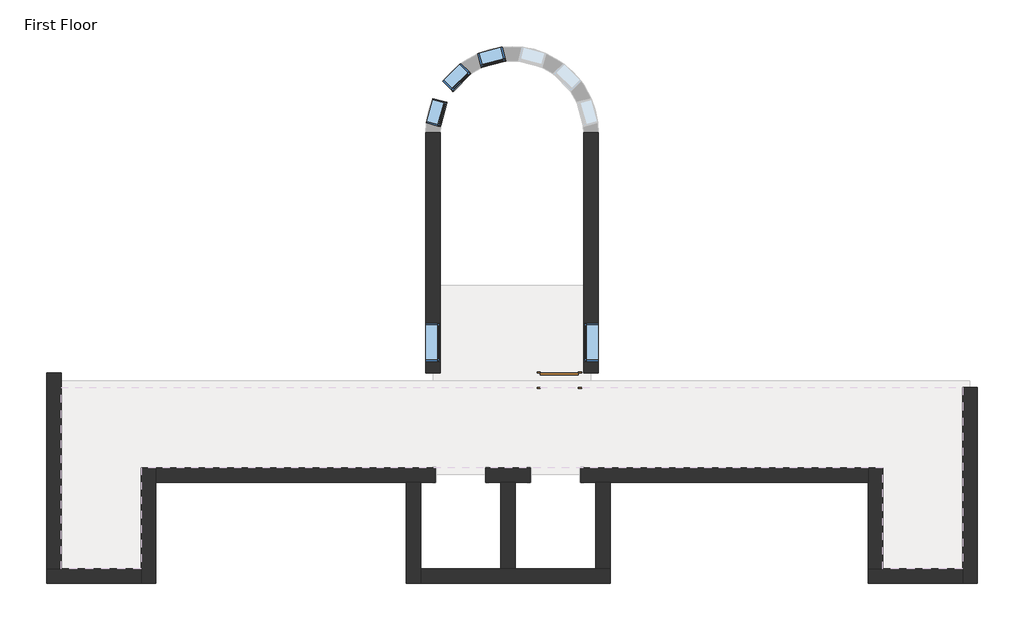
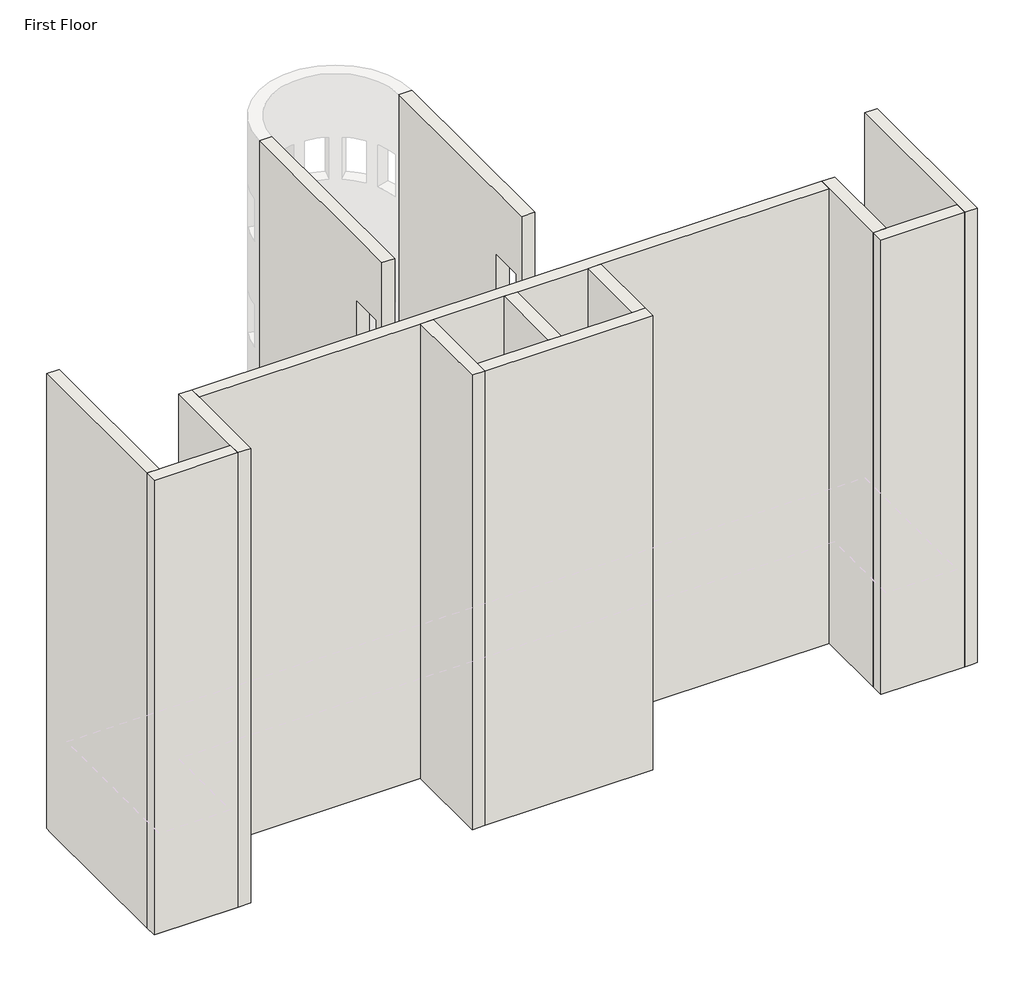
# One storey, part 1 of 3: 13 walls, 5 windows, 1 door.
"""IFC4 building model written with IfcOpenShell, lengths in millimetres."""

import ifcopenshell
import ifcopenshell.guid

model = None  # the IFC model being written
_history = None  # IfcOwnerHistory: only IFC2X3 demands one
_inside = {}  # id of a spatial element -> (the spatial element, [elements in it])
_under = {}  # id of a project, library or spatial element -> (it, [spatial elements below it])
_declared = {}  # id of a project -> (the project, [libraries it declares])
_typed = {}  # id of a type object -> (the type object, [elements of that type])
_made_of = {}  # id of a material, layer set ... -> (it, [elements and type objects made of it])


def new_model(schema):
    """Start an empty IFC model of exactly this schema.

    Asked for "IFC4X3", IfcOpenShell would pick the latest addendum, in which some entities
    have other attributes; the version numbers below select the first issue.
    IFC2X3 requires an IfcOwnerHistory on every rooted entity: one is made here for all.
    """
    global model, _history
    if schema == "IFC4X3":
        model = ifcopenshell.file(schema_version=(4, 3, 0, 0))
    else:
        model = ifcopenshell.file(schema=schema)
    _inside.clear()
    _under.clear()
    _declared.clear()
    _typed.clear()
    _made_of.clear()
    _history = None
    if model.schema == "IFC2X3":
        org = make("IfcOrganization", Name="unknown")
        user = make(
            "IfcPersonAndOrganization",
            ThePerson=make("IfcPerson", FamilyName="unknown"),
            TheOrganization=org,
        )
        app = make(
            "IfcApplication",
            ApplicationDeveloper=org,
            Version="unknown",
            ApplicationFullName="unknown",
            ApplicationIdentifier="unknown",
        )
        _history = make(
            "IfcOwnerHistory",
            OwningUser=user,
            OwningApplication=app,
            ChangeAction="ADDED",
            CreationDate=0,
        )
    return model


def make(cls, **values):
    """One entity of the class cls with the attributes given. An attribute that is None is left unset."""
    return model.create_entity(
        cls, **{name: value for name, value in values.items() if value is not None}
    )


def rooted(cls, **values):
    """An entity with a GlobalId (a new one), such as an element, a storey or a relation."""
    return make(cls, GlobalId=ifcopenshell.guid.new(), OwnerHistory=_history, **values)


def si_unit(unit_type, name, prefix=None):
    """IfcSIUnit, for example si_unit("LENGTHUNIT", "METRE", prefix="MILLI")."""
    return make("IfcSIUnit", UnitType=unit_type, Prefix=prefix, Name=name)


def assignment(units):
    """IfcUnitAssignment: the units of a project."""
    return None if units is None else make("IfcUnitAssignment", Units=units)


def point(xyz):
    """IfcCartesianPoint."""
    return None if xyz is None else make("IfcCartesianPoint", Coordinates=xyz)


def direction(xyz):
    """IfcDirection."""
    return None if xyz is None else make("IfcDirection", DirectionRatios=xyz)


def frame(location, z_axis=None, x_axis=None):
    """IfcAxis2Placement3D, a coordinate frame: its origin and axes. An axis left out is left unset."""
    return make(
        "IfcAxis2Placement3D",
        Location=point(location),
        Axis=direction(z_axis),
        RefDirection=direction(x_axis),
    )


def origin():
    """The frame at (0, 0, 0) with its axes left unset."""
    return frame((0.0, 0.0, 0.0))


def origin_with_axes():
    """The frame at (0, 0, 0) with the z axis (0, 0, 1) and the x axis (1, 0, 0) written out."""
    return frame((0.0, 0.0, 0.0), z_axis=(0.0, 0.0, 1.0), x_axis=(1.0, 0.0, 0.0))


def place(relative_to, where):
    """IfcLocalPlacement: puts the frame where relative to a parent placement (None: the world)."""
    return make(
        "IfcLocalPlacement", PlacementRelTo=relative_to, RelativePlacement=where
    )


def context(
    kind, dimensions, precision=None, world=None, true_north=None, identifier=None
):
    """IfcGeometricRepresentationContext, for example the 3D "Model" context."""
    return make(
        "IfcGeometricRepresentationContext",
        ContextIdentifier=identifier,
        ContextType=kind,
        CoordinateSpaceDimension=dimensions,
        Precision=precision,
        WorldCoordinateSystem=world,
        TrueNorth=true_north,
    )


def project(units=None, contexts=None):
    """IfcProject with its units and contexts."""
    return rooted(
        "IfcProject",
        Name="project",
        RepresentationContexts=contexts,
        UnitsInContext=assignment(units),
    )


def spatial(cls, under=None, at=None, **own):
    """A site, building, storey or space (cls), placed at a placement, below another one or the project."""
    s = rooted(cls, ObjectPlacement=at, **own)
    if under is not None:
        _under.setdefault(under.id(), (under, []))[1].append(s)
    return s


def polyline(points):
    """IfcPolyline through the points."""
    return make("IfcPolyline", Points=[point(p) for p in points])


def outline(outer, holes=None, kind="AREA"):
    """IfcArbitraryClosedProfileDef: a profile drawn as a closed curve; with holes, ...WithVoids."""
    if holes is None:
        return make("IfcArbitraryClosedProfileDef", ProfileType=kind, OuterCurve=outer)
    return make(
        "IfcArbitraryProfileDefWithVoids",
        ProfileType=kind,
        OuterCurve=outer,
        InnerCurves=holes,
    )


def extrude(swept, where, along, depth):
    """IfcExtrudedAreaSolid: the profile swept, set in the frame where, extruded along a direction by depth."""
    return make(
        "IfcExtrudedAreaSolid",
        SweptArea=swept,
        Position=where,
        ExtrudedDirection=direction(along),
        Depth=depth,
    )


def faces_of(points, faces, orient=None, outer=None):
    """IfcFace entities. A face is a list of loops; a loop is a list of indices into points, from 0.

    orient and outer hold one flag for each loop. By default every Orientation is true, the
    first loop of a face is its IfcFaceOuterBound and the others are IfcFaceBound.
    """
    made = []
    for i, loops in enumerate(faces):
        bounds = []
        for j, loop in enumerate(loops):
            is_outer = j == 0 if outer is None else outer[i][j]
            bounds.append(
                make(
                    "IfcFaceOuterBound" if is_outer else "IfcFaceBound",
                    Bound=make("IfcPolyLoop", Polygon=[points[k] for k in loop]),
                    Orientation=True if orient is None else orient[i][j],
                )
            )
        made.append(make("IfcFace", Bounds=bounds))
    return made


def faceted_brep(points, faces, orient=None, outer=None, voids=None):
    """IfcFacetedBrep: a solid bounded by flat faces; with voids (closed shells), ...WithVoids."""
    shared = [point(p) for p in points]
    hull = make("IfcClosedShell", CfsFaces=faces_of(shared, faces, orient, outer))
    if voids is None:
        return make("IfcFacetedBrep", Outer=hull)
    return make(
        "IfcFacetedBrepWithVoids",
        Outer=hull,
        Voids=[
            make(cls, CfsFaces=faces_of(shared, fs, o, b)) for cls, fs, o, b in voids
        ],
    )


def shape(context_of_items, identifier, shape_type, items):
    """IfcShapeRepresentation: the items that make up one representation, for example the "Body"."""
    return make(
        "IfcShapeRepresentation",
        ContextOfItems=context_of_items,
        RepresentationIdentifier=identifier,
        RepresentationType=shape_type,
        Items=items,
    )


def source(mapping_origin, context_of_items, identifier, shape_type, items):
    """IfcRepresentationMap: a shape defined once, which mapped items show again and again."""
    return make(
        "IfcRepresentationMap",
        MappingOrigin=mapping_origin,
        MappedRepresentation=shape(context_of_items, identifier, shape_type, items),
    )


def transform(
    local_origin,
    x_axis=None,
    y_axis=None,
    z_axis=None,
    scale=None,
    scale2=None,
    scale3=None,
    uniform=True,
):
    """IfcCartesianTransformationOperator3D, or its non-uniform kind. x_axis, y_axis, z_axis: its Axis1, 2, 3."""
    if uniform:
        return make(
            "IfcCartesianTransformationOperator3D",
            Axis1=direction(x_axis),
            Axis2=direction(y_axis),
            LocalOrigin=point(local_origin),
            Scale=scale,
            Axis3=direction(z_axis),
        )
    return make(
        "IfcCartesianTransformationOperator3DnonUniform",
        Axis1=direction(x_axis),
        Axis2=direction(y_axis),
        LocalOrigin=point(local_origin),
        Scale=scale,
        Axis3=direction(z_axis),
        Scale2=scale2,
        Scale3=scale3,
    )


def mapped(mapping_source, mapping_target):
    """IfcMappedItem: shows the shape of a source again, moved by a transform."""
    return make(
        "IfcMappedItem", MappingSource=mapping_source, MappingTarget=mapping_target
    )


def made_of(thing, what):
    """Note that an element or type object is made of a material, layer set ...; save() writes the relation."""
    if what is not None:
        _made_of.setdefault(what.id(), (what, []))[1].append(thing)
    return thing


def element(
    cls,
    number,
    at=None,
    inside=None,
    cuts=None,
    type_object=None,
    material=None,
    context=None,
    identifier="Body",
    shape_type=None,
    held_by="IfcProductDefinitionShape",
    body=None,
    shapes=None,
    **own,
):
    """One element of the class cls, such as IfcWall. Its Tag is "e" and its number.

    at: its placement. inside: the storey or other place that contains it. cuts: it is an
    opening in that element (IfcRelVoidsElement). A single representation is given by context,
    identifier, shape_type and body (its items); several are given by shapes. held_by: the class
    of the entity that holds the representations. save() writes the other relations.
    """
    e = rooted(cls, Tag="e%d" % number, ObjectPlacement=at, **own)
    if body is not None:
        shapes = [shape(context, identifier, shape_type, body)]
    if shapes is not None:
        e.Representation = make(held_by, Representations=shapes)
    if inside is not None:
        _inside.setdefault(inside.id(), (inside, []))[1].append(e)
    if cuts is not None:
        rooted(
            "IfcRelVoidsElement", RelatingBuildingElement=cuts, RelatedOpeningElement=e
        )
    if type_object is not None:
        _typed.setdefault(type_object.id(), (type_object, []))[1].append(e)
    return made_of(e, material)


def aggregate(whole, parts):
    """IfcRelAggregates: a whole, such as a stair, and the parts it consists of."""
    return rooted("IfcRelAggregates", RelatingObject=whole, RelatedObjects=parts)


def save(model, path):
    """Write the relations noted so far, then the file.

    IfcRelAggregates (storeys below a building ...), IfcRelContainedInSpatialStructure (elements
    in a storey), IfcRelDefinesByType, IfcRelAssociatesMaterial and IfcRelDeclares: one each for
    every whole, place, type object, material and project.
    """
    for whole, parts in _under.values():
        aggregate(whole, parts)
    for where, things in _inside.values():
        rooted(
            "IfcRelContainedInSpatialStructure",
            RelatedElements=things,
            RelatingStructure=where,
        )
    for kind, things in _typed.values():
        rooted("IfcRelDefinesByType", RelatedObjects=things, RelatingType=kind)
    for what, things in _made_of.values():
        rooted("IfcRelAssociatesMaterial", RelatedObjects=things, RelatingMaterial=what)
    for by, libraries in _declared.values():
        rooted("IfcRelDeclares", RelatingContext=by, RelatedDefinitions=libraries)
    model.write(path)


def m_single_flush_0915_x_2134mm_1eac8bb1(model_context):
    return source(origin(), model_context, "Body", "SweptSolid", [
        extrude(outline(polyline([(2210.0, -533.5), (0.0, -533.5), (0.0, -457.5), (2134.0, -457.5), (2134.0, 457.5), (0.0, 457.5), (0.0, 533.5), (2210.0, 533.5), (2210.0, -533.5)])), frame((0.0, 175.0, 0.0), z_axis=(0.0, 1.0, 0.0), x_axis=(0.0, 0.0, 1.0)), (0.0, 0.0, 1.0), 25.0),
        extrude(outline(polyline([(2210.0, 533.5), (2210.0, -533.5), (0.0, -533.5), (0.0, -457.5), (2134.0, -457.5), (2134.0, 457.5), (0.0, 457.5), (0.0, 533.5), (2210.0, 533.5)])), frame((0.0, -200.0, 0.0), z_axis=(0.0, 1.0, 0.0), x_axis=(0.0, 0.0, 1.0)), (0.0, 0.0, 1.0), 25.0),
        extrude(outline(polyline([(457.5, 124.0), (-457.5, 124.0), (-457.5, 175.0), (457.5, 175.0), (457.5, 124.0)])), origin_with_axes(), (0.0, 0.0, 1.0), 2134.0),
    ])


def m_fixed_0610_x_1220mm_2c28ef1d(model_context):
    return source(origin(), model_context, "Body", "SweptSolid", [
        extrude(outline(polyline([(-242.0, 153.0), (242.0, 153.0), (242.0, 141.0), (-242.0, 141.0), (-242.0, 153.0)])), frame((0.0, 0.0, 978.0), z_axis=(0.0, 0.0, 1.0), x_axis=(1.0, 0.0, 0.0)), (0.0, 0.0, 1.0), 1094.0),
        extrude(outline(polyline([(2116.0, -286.0), (934.0, -286.0), (934.0, 286.0), (2116.0, 286.0), (2116.0, -286.0)]), holes=[polyline([(2072.0, -242.0), (2072.0, 242.0), (978.0, 242.0), (978.0, -242.0), (2072.0, -242.0)])]), frame((0.0, 125.0, 0.0), z_axis=(0.0, 1.0, 0.0), x_axis=(0.0, 0.0, 1.0)), (0.0, 0.0, 1.0), 44.0),
        extrude(outline(polyline([(2135.0, -305.0), (915.0, -305.0), (915.0, 305.0), (2135.0, 305.0), (2135.0, -305.0)]), holes=[polyline([(2116.0, -286.0), (2116.0, 286.0), (934.0, 286.0), (934.0, -286.0), (2116.0, -286.0)])]), frame((0.0, 125.0, 0.0), z_axis=(0.0, 1.0, 0.0), x_axis=(0.0, 0.0, 1.0)), (0.0, 0.0, 1.0), 63.0),
        extrude(outline(polyline([(2135.0, -305.0), (915.0, -305.0), (915.0, 305.0), (2135.0, 305.0), (2135.0, -305.0)]), holes=[polyline([(2103.0, -273.0), (2103.0, 273.0), (947.0, 273.0), (947.0, -273.0), (2103.0, -273.0)])]), frame((0.0, -162.0, 0.0), z_axis=(0.0, 1.0, 0.0), x_axis=(0.0, 0.0, 1.0)), (0.0, 0.0, 1.0), 287.0),
    ])


def m_fixed_0915_x_1220mm_bde29121(model_context):
    return source(origin(), model_context, "Body", "SweptSolid", [
        extrude(outline(polyline([(-394.5, 153.0), (394.5, 153.0), (394.5, 141.0), (-394.5, 141.0), (-394.5, 153.0)])), frame((0.0, 0.0, 978.0), z_axis=(0.0, 0.0, 1.0), x_axis=(1.0, 0.0, 0.0)), (0.0, 0.0, 1.0), 1094.0),
        extrude(outline(polyline([(2116.0, -438.5), (934.0, -438.5), (934.0, 438.5), (2116.0, 438.5), (2116.0, -438.5)]), holes=[polyline([(2072.0, -394.5), (2072.0, 394.5), (978.0, 394.5), (978.0, -394.5), (2072.0, -394.5)])]), frame((0.0, 125.0, 0.0), z_axis=(0.0, 1.0, 0.0), x_axis=(0.0, 0.0, 1.0)), (0.0, 0.0, 1.0), 44.0),
        extrude(outline(polyline([(2135.0, -457.5), (915.0, -457.5), (915.0, 457.5), (2135.0, 457.5), (2135.0, -457.5)]), holes=[polyline([(2116.0, -438.5), (2116.0, 438.5), (934.0, 438.5), (934.0, -438.5), (2116.0, -438.5)])]), frame((0.0, 125.0, 0.0), z_axis=(0.0, 1.0, 0.0), x_axis=(0.0, 0.0, 1.0)), (0.0, 0.0, 1.0), 63.0),
        extrude(outline(polyline([(2135.0, -457.5), (915.0, -457.5), (915.0, 457.5), (2135.0, 457.5), (2135.0, -457.5)]), holes=[polyline([(2103.0, -425.5), (2103.0, 425.5), (947.0, 425.5), (947.0, -425.5), (2103.0, -425.5)])]), frame((0.0, -162.0, 0.0), z_axis=(0.0, 1.0, 0.0), x_axis=(0.0, 0.0, 1.0)), (0.0, 0.0, 1.0), 287.0),
    ])


model = new_model("IFC4")

# Units and contexts
model_context = context("Model", 3, world=origin())
ifc_project = project(units=[si_unit("LENGTHUNIT", "METRE", prefix="MILLI")], contexts=[model_context])

# Site, building, storey
site = spatial("IfcSite", under=ifc_project)
building = spatial("IfcBuilding", under=site)
storey = spatial("IfcBuildingStorey", under=building, Name="First Floor", Elevation=0.0)

# Door
placement = place(None, origin())
m_single_flush_0915_x_2134mm_shape = m_single_flush_0915_x_2134mm_1eac8bb1(model_context)
element("IfcDoor", 1, ObjectType="M_Single-Flush : 0915 x 2134mm", at=placement, inside=storey, context=model_context, shape_type="MappedRepresentation", body=[
    mapped(m_single_flush_0915_x_2134mm_shape, transform((3632.0924567, -764.7443399, 0.0), x_axis=(1.0, 0.0, 0.0), y_axis=(0.0, 1.0, 0.0), z_axis=(0.0, 0.0, 1.0))),
])

# Walls
element("IfcWall", 2, ObjectType="Exterior - Brick on Mtl. Stud", at=placement, inside=storey, context=model_context, shape_type="Brep", body=[
    faceted_brep([(-6448.9075433, -2875.7443399, 0.0), (-6448.9075433, -5314.1443399, 0.0), (-6448.9075433, -5664.1443399, 0.0), (-6448.9075433, -5664.1443399, 13107.0), (-6448.9075433, -5314.1443399, 13107.0), (-6448.9075433, -2875.7443399, 13107.0), (-6098.9075433, -2875.7443399, 0.0), (-6098.9075433, -2875.7443399, 13107.0), (-6098.9075433, -3225.7443399, 13107.0), (-6098.9075433, -5664.1443399, 13107.0), (-6098.9075433, -5664.1443399, 0.0), (-6098.9075433, -3225.7443399, 0.0)], [[[0, 1, 2, 3, 4, 5]], [[6, 7, 8, 9, 10, 11]], [[2, 1, 0, 6, 11, 10]], [[5, 4, 3, 9, 8, 7]], [[3, 2, 10, 9]], [[0, 5, 7, 6]]]),
])
element("IfcWall", 3, ObjectType="Exterior - Brick on Mtl. Stud", at=placement, inside=storey, context=model_context, shape_type="Brep", body=[
    faceted_brep([(-6448.9075433, -5314.1443399, 0.0), (-8384.9075433, -5314.1443399, 0.0), (-8734.9075433, -5314.1443399, 0.0), (-8734.9075433, -5314.1443399, 13107.0), (-8384.9075433, -5314.1443399, 13107.0), (-6448.9075433, -5314.1443399, 13107.0), (-6448.9075433, -5664.1443399, 0.0), (-6448.9075433, -5664.1443399, 13107.0), (-8734.9075433, -5664.1443399, 13107.0), (-8734.9075433, -5664.1443399, 0.0)], [[[0, 1, 2, 3, 4, 5]], [[6, 7, 8, 9]], [[2, 1, 0, 6, 9]], [[5, 4, 3, 8, 7]], [[0, 5, 7, 6]], [[3, 2, 9, 8]]]),
])
element("IfcWall", 4, ObjectType="Exterior - Brick on Mtl. Stud", at=placement, inside=storey, context=model_context, shape_type="Brep", body=[
    faceted_brep([(-8384.9075433, -5314.1443399, 0.0), (-8384.9075433, -939.7443399, 0.0), (-8384.9075433, -774.7443399, 0.0), (-8384.9075433, -589.7443399, 0.0), (-8384.9075433, -589.7443399, 13107.0), (-8384.9075433, -939.7443399, 13107.0), (-8384.9075433, -5314.1443399, 13107.0), (-8734.9075433, -5314.1443399, 0.0), (-8734.9075433, -5314.1443399, 13107.0), (-8734.9075433, -589.7443399, 13107.0), (-8734.9075433, -589.7443399, 0.0), (-8734.9075433, -774.7443399, 0.0), (-8549.9075433, -5314.1443399, 0.0), (-8549.9075433, -589.7443399, 0.0), (-8549.9075433, -774.7443399, 0.0)], [[[0, 1, 2, 3, 4, 5, 6]], [[7, 8, 9, 10, 11]], [[6, 5, 4, 9, 8]], [[0, 6, 8, 7, 12]], [[4, 3, 13, 10, 9]], [[12, 7, 11, 14]], [[3, 2, 14, 13]], [[14, 11, 10, 13]], [[2, 1, 0, 12, 14]]]),
])
element("IfcWall", 5, ObjectType="Exterior - Brick on Mtl. Stud", at=placement, inside=storey, context=model_context, shape_type="Brep", body=[
    faceted_brep([(13363.0924567, -939.7443399, 0.0), (13363.0924567, -5314.1443399, 0.0), (13363.0924567, -5479.1443399, 0.0), (13363.0924567, -5664.1443399, 0.0), (13363.0924567, -5664.1443399, 13107.0), (13363.0924567, -5314.1443399, 13107.0), (13363.0924567, -939.7443399, 13107.0), (13713.0924567, -939.7443399, 0.0), (13713.0924567, -939.7443399, 13107.0), (13713.0924567, -5664.1443399, 13107.0), (13713.0924567, -5664.1443399, 0.0), (13713.0924567, -5479.1443399, 0.0), (13528.0924567, -939.7443399, 0.0), (13528.0924567, -5664.1443399, 0.0), (13528.0924567, -5479.1443399, 0.0)], [[[0, 1, 2, 3, 4, 5, 6]], [[7, 8, 9, 10, 11]], [[6, 5, 4, 9, 8]], [[0, 6, 8, 7, 12]], [[4, 3, 13, 10, 9]], [[12, 7, 11, 14]], [[3, 2, 14, 13]], [[14, 11, 10, 13]], [[2, 1, 0, 12, 14]]]),
])
element("IfcWall", 6, ObjectType="Exterior - Brick on Mtl. Stud", at=placement, inside=storey, context=model_context, shape_type="Brep", body=[
    faceted_brep([(13363.0924567, -5314.1443399, 0.0), (11427.0924567, -5314.1443399, 0.0), (11077.0924567, -5314.1443399, 0.0), (11077.0924567, -5314.1443399, 13107.0), (11427.0924567, -5314.1443399, 13107.0), (13363.0924567, -5314.1443399, 13107.0), (13363.0924567, -5664.1443399, 0.0), (13363.0924567, -5664.1443399, 13107.0), (11077.0924567, -5664.1443399, 13107.0), (11077.0924567, -5664.1443399, 0.0)], [[[0, 1, 2, 3, 4, 5]], [[6, 7, 8, 9]], [[2, 1, 0, 6, 9]], [[5, 4, 3, 8, 7]], [[0, 5, 7, 6]], [[3, 2, 9, 8]]]),
])
element("IfcWall", 7, ObjectType="Exterior - Brick on Mtl. Stud", at=placement, inside=storey, context=model_context, shape_type="Brep", body=[
    faceted_brep([(11427.0924567, -5314.1443399, 0.0), (11427.0924567, -2875.7443399, 0.0), (11427.0924567, -2875.7443399, 13107.0), (11427.0924567, -5314.1443399, 13107.0), (11077.0924567, -5314.1443399, 0.0), (11077.0924567, -5314.1443399, 13107.0), (11077.0924567, -3225.7443399, 13107.0), (11077.0924567, -2875.7443399, 13107.0), (11077.0924567, -2875.7443399, 0.0), (11077.0924567, -3225.7443399, 0.0)], [[[0, 1, 2, 3]], [[4, 5, 6, 7, 8, 9]], [[1, 0, 4, 9, 8]], [[3, 2, 7, 6, 5]], [[0, 3, 5, 4]], [[2, 1, 8, 7]]]),
])
element("IfcWall", 8, ObjectType="Exterior - Brick on Mtl. Stud", at=placement, inside=storey, context=model_context, shape_type="Brep", body=[
    faceted_brep([(2928.0924567, -2875.7443399, 0.0), (1862.0924567, -2875.7443399, 0.0), (1862.0924567, -2875.7443399, 2134.0), (642.0924567, -2875.7443399, 2134.0), (642.0924567, -2875.7443399, 0.0), (-6098.9075433, -2875.7443399, 0.0), (-6098.9075433, -2875.7443399, 13107.0), (11077.0924567, -2875.7443399, 13107.0), (11077.0924567, -2875.7443399, 0.0), (4148.0924567, -2875.7443399, 0.0), (4148.0924567, -2875.7443399, 2134.0), (2928.0924567, -2875.7443399, 2134.0), (642.0924567, -2875.7443399, 11278.0), (642.0924567, -2875.7443399, 9144.0), (1862.0924567, -2875.7443399, 9144.0), (1862.0924567, -2875.7443399, 11278.0), (4148.0924567, -2875.7443399, 11278.0), (2928.0924567, -2875.7443399, 11278.0), (2928.0924567, -2875.7443399, 9144.0), (4148.0924567, -2875.7443399, 9144.0), (642.0924567, -2875.7443399, 5182.0), (642.0924567, -2875.7443399, 3048.0), (1862.0924567, -2875.7443399, 3048.0), (1862.0924567, -2875.7443399, 5182.0), (4148.0924567, -2875.7443399, 5182.0), (2928.0924567, -2875.7443399, 5182.0), (2928.0924567, -2875.7443399, 3048.0), (4148.0924567, -2875.7443399, 3048.0), (642.0924567, -2875.7443399, 8230.0), (642.0924567, -2875.7443399, 6096.0), (1862.0924567, -2875.7443399, 6096.0), (1862.0924567, -2875.7443399, 8230.0), (4148.0924567, -2875.7443399, 8230.0), (2928.0924567, -2875.7443399, 8230.0), (2928.0924567, -2875.7443399, 6096.0), (4148.0924567, -2875.7443399, 6096.0), (1862.0924567, -3225.7443399, 2134.0), (1862.0924567, -3225.7443399, 0.0), (2220.0924567, -3225.7443399, 0.0), (2570.0924567, -3225.7443399, 0.0), (2928.0924567, -3225.7443399, 0.0), (2928.0924567, -3225.7443399, 2134.0), (4148.0924567, -3225.7443399, 2134.0), (4148.0924567, -3225.7443399, 0.0), (4506.0924567, -3225.7443399, 0.0), (4856.0924567, -3225.7443399, 0.0), (11077.0924567, -3225.7443399, 0.0), (11077.0924567, -3225.7443399, 13107.0), (4856.0924567, -3225.7443399, 13107.0), (4506.0924567, -3225.7443399, 13107.0), (2570.0924567, -3225.7443399, 13107.0), (2220.0924567, -3225.7443399, 13107.0), (284.0924567, -3225.7443399, 13107.0), (-65.9075433, -3225.7443399, 13107.0), (-6098.9075433, -3225.7443399, 13107.0), (-6098.9075433, -3225.7443399, 0.0), (-65.9075433, -3225.7443399, 0.0), (284.0924567, -3225.7443399, 0.0), (642.0924567, -3225.7443399, 0.0), (642.0924567, -3225.7443399, 2134.0), (642.0924567, -3225.7443399, 11278.0), (1862.0924567, -3225.7443399, 11278.0), (1862.0924567, -3225.7443399, 9144.0), (642.0924567, -3225.7443399, 9144.0), (4148.0924567, -3225.7443399, 11278.0), (4148.0924567, -3225.7443399, 9144.0), (2928.0924567, -3225.7443399, 9144.0), (2928.0924567, -3225.7443399, 11278.0), (642.0924567, -3225.7443399, 5182.0), (1862.0924567, -3225.7443399, 5182.0), (1862.0924567, -3225.7443399, 3048.0), (642.0924567, -3225.7443399, 3048.0), (4148.0924567, -3225.7443399, 5182.0), (4148.0924567, -3225.7443399, 3048.0), (2928.0924567, -3225.7443399, 3048.0), (2928.0924567, -3225.7443399, 5182.0), (642.0924567, -3225.7443399, 8230.0), (1862.0924567, -3225.7443399, 8230.0), (1862.0924567, -3225.7443399, 6096.0), (642.0924567, -3225.7443399, 6096.0), (4148.0924567, -3225.7443399, 8230.0), (4148.0924567, -3225.7443399, 6096.0), (2928.0924567, -3225.7443399, 6096.0), (2928.0924567, -3225.7443399, 8230.0)], [[[0, 1, 2, 3, 4, 5, 6, 7, 8, 9, 10, 11], [12, 13, 14, 15], [16, 17, 18, 19], [20, 21, 22, 23], [24, 25, 26, 27], [28, 29, 30, 31], [32, 33, 34, 35]], [[36, 37, 38, 39, 40, 41, 42, 43, 44, 45, 46, 47, 48, 49, 50, 51, 52, 53, 54, 55, 56, 57, 58, 59], [60, 61, 62, 63], [64, 65, 66, 67], [68, 69, 70, 71], [72, 73, 74, 75], [76, 77, 78, 79], [80, 81, 82, 83]], [[9, 8, 46, 45, 44, 43]], [[58, 57, 56, 55, 5, 4]], [[40, 39, 38, 37, 1, 0]], [[7, 6, 54, 53, 52, 51, 50, 49, 48, 47]], [[6, 5, 55, 54]], [[8, 7, 47, 46]], [[43, 42, 10, 9]], [[41, 40, 0, 11]], [[42, 41, 11, 10]], [[4, 3, 59, 58]], [[2, 1, 37, 36]], [[3, 2, 36, 59]], [[13, 12, 60, 63]], [[14, 13, 63, 62]], [[15, 14, 62, 61]], [[12, 15, 61, 60]], [[65, 64, 16, 19]], [[66, 65, 19, 18]], [[67, 66, 18, 17]], [[64, 67, 17, 16]], [[21, 20, 68, 71]], [[22, 21, 71, 70]], [[23, 22, 70, 69]], [[20, 23, 69, 68]], [[73, 72, 24, 27]], [[74, 73, 27, 26]], [[75, 74, 26, 25]], [[72, 75, 25, 24]], [[29, 28, 76, 79]], [[30, 29, 79, 78]], [[31, 30, 78, 77]], [[28, 31, 77, 76]], [[81, 80, 32, 35]], [[82, 81, 35, 34]], [[83, 82, 34, 33]], [[80, 83, 33, 32]]]),
])
element("IfcWall", 9, ObjectType="Exterior - Brick on Mtl. Stud", at=placement, inside=storey, context=model_context, shape_type="SweptSolid", body=[
    extrude(outline(polyline([(5210.2556601, 0.0), (-589.7443399, 0.0), (-589.7443399, 13107.0), (5210.2556601, 13107.0), (5210.2556601, 0.0)]), holes=[polyline([(607.7556601, 915.0), (607.7556601, 2135.0), (-307.2443399, 2135.0), (-307.2443399, 915.0), (607.7556601, 915.0)]), polyline([(607.7556601, 10059.0), (607.7556601, 11279.0), (-307.2443399, 11279.0), (-307.2443399, 10059.0), (607.7556601, 10059.0)]), polyline([(607.7556601, 3963.0), (607.7556601, 5183.0), (-307.2443399, 5183.0), (-307.2443399, 3963.0), (607.7556601, 3963.0)]), polyline([(607.7556601, 7011.0), (607.7556601, 8231.0), (-307.2443399, 8231.0), (-307.2443399, 7011.0), (607.7556601, 7011.0)])]), frame((409.0924567, 0.0, 0.0), z_axis=(1.0, 0.0, 0.0), x_axis=(0.0, 1.0, 0.0)), (0.0, 0.0, 1.0), 350.0),
])
element("IfcWall", 10, ObjectType="Exterior - Brick on Mtl. Stud", at=placement, inside=storey, context=model_context, shape_type="SweptSolid", body=[
    extrude(outline(polyline([(-589.7443399, 0.0), (-589.7443399, 13107.0), (5210.2556601, 13107.0), (5210.2556601, 0.0), (-589.7443399, 0.0)]), holes=[polyline([(-307.2443399, 915.0), (607.7556601, 915.0), (607.7556601, 2135.0), (-307.2443399, 2135.0), (-307.2443399, 915.0)]), polyline([(-307.2443399, 10059.0), (607.7556601, 10059.0), (607.7556601, 11279.0), (-307.2443399, 11279.0), (-307.2443399, 10059.0)]), polyline([(-307.2443399, 3963.0), (607.7556601, 3963.0), (607.7556601, 5183.0), (-307.2443399, 5183.0), (-307.2443399, 3963.0)]), polyline([(-307.2443399, 7011.0), (607.7556601, 7011.0), (607.7556601, 8231.0), (-307.2443399, 8231.0), (-307.2443399, 7011.0)])]), frame((4219.0924567, 0.0, 0.0), z_axis=(1.0, 0.0, 0.0), x_axis=(0.0, 1.0, 0.0)), (0.0, 0.0, 1.0), 350.0),
])
element("IfcWall", 11, ObjectType="Exterior - Brick on Mtl. Stud", at=placement, inside=storey, context=model_context, shape_type="Brep", body=[
    faceted_brep([(-65.9075433, -3225.7443399, 0.0), (-65.9075433, -5664.1443399, 0.0), (-65.9075433, -5664.1443399, 13107.0), (-65.9075433, -3225.7443399, 13107.0), (284.0924567, -3225.7443399, 0.0), (284.0924567, -3225.7443399, 13107.0), (284.0924567, -5314.1443399, 13107.0), (284.0924567, -5664.1443399, 13107.0), (284.0924567, -5664.1443399, 0.0), (284.0924567, -5314.1443399, 0.0)], [[[0, 1, 2, 3]], [[4, 5, 6, 7, 8, 9]], [[1, 0, 4, 9, 8]], [[3, 2, 7, 6, 5]], [[0, 3, 5, 4]], [[2, 1, 8, 7]]]),
])
element("IfcWall", 12, ObjectType="Exterior - Brick on Mtl. Stud", at=placement, inside=storey, context=model_context, shape_type="Brep", body=[
    faceted_brep([(284.0924567, -5664.1443399, 0.0), (4856.0924567, -5664.1443399, 0.0), (4856.0924567, -5664.1443399, 13107.0), (284.0924567, -5664.1443399, 13107.0), (284.0924567, -5314.1443399, 0.0), (284.0924567, -5314.1443399, 13107.0), (2220.0924567, -5314.1443399, 13107.0), (2570.0924567, -5314.1443399, 13107.0), (4506.0924567, -5314.1443399, 13107.0), (4856.0924567, -5314.1443399, 13107.0), (4856.0924567, -5314.1443399, 0.0), (4506.0924567, -5314.1443399, 0.0), (2570.0924567, -5314.1443399, 0.0), (2220.0924567, -5314.1443399, 0.0)], [[[0, 1, 2, 3]], [[4, 5, 6, 7, 8, 9, 10, 11, 12, 13]], [[1, 0, 4, 13, 12, 11, 10]], [[3, 2, 9, 8, 7, 6, 5]], [[0, 3, 5, 4]], [[2, 1, 10, 9]]]),
])
element("IfcWall", 13, ObjectType="Exterior - Brick on Mtl. Stud", at=placement, inside=storey, context=model_context, shape_type="SweptSolid", body=[
    extrude(outline(polyline([(4856.0924567, -3225.7443399), (4856.0924567, -5314.1443399), (4506.0924567, -5314.1443399), (4506.0924567, -3225.7443399), (4856.0924567, -3225.7443399)])), origin_with_axes(), (0.0, 0.0, 1.0), 13107.0),
])
element("IfcWall", 14, ObjectType="Exterior - Brick on Mtl. Stud", at=placement, inside=storey, context=model_context, shape_type="SweptSolid", body=[
    extrude(outline(polyline([(2570.0924567, -3225.7443399), (2570.0924567, -5314.1443399), (2220.0924567, -5314.1443399), (2220.0924567, -3225.7443399), (2570.0924567, -3225.7443399)])), origin_with_axes(), (0.0, 0.0, 1.0), 13107.0),
])

# Windows
m_fixed_0610_x_1220mm_shape = m_fixed_0610_x_1220mm_2c28ef1d(model_context)
element("IfcWindow", 15, ObjectType="M_Fixed : 0610 x 1220mm", at=placement, inside=storey, context=model_context, shape_type="MappedRepresentation", body=[
    mapped(m_fixed_0610_x_1220mm_shape, transform((658.1639152, 5700.8514842, 0.0), x_axis=(-0.2588190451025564, -0.9659258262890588, 0.0), y_axis=(0.9659258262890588, -0.2588190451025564, 0.0), z_axis=(0.0, 0.0, 1.0))),
])
element("IfcWindow", 16, ObjectType="M_Fixed : 0610 x 1220mm", at=placement, inside=storey, context=model_context, shape_type="MappedRepresentation", body=[
    mapped(m_fixed_0610_x_1220mm_shape, transform((1998.4966326, 7041.1842016, 0.0), x_axis=(-0.9659258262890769, -0.2588190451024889, 0.0), y_axis=(0.2588190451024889, -0.9659258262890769, 0.0), z_axis=(0.0, 0.0, 1.0))),
])
element("IfcWindow", 17, ObjectType="M_Fixed : 0610 x 1220mm", at=placement, inside=storey, context=model_context, shape_type="MappedRepresentation", body=[
    mapped(m_fixed_0610_x_1220mm_shape, transform((1148.7597393, 6550.5883775, 0.0), x_axis=(-0.7071067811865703, -0.7071067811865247, 0.0), y_axis=(0.7071067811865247, -0.7071067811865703, 0.0), z_axis=(0.0, 0.0, 1.0))),
])
m_fixed_0915_x_1220mm_shape = m_fixed_0915_x_1220mm_bde29121(model_context)
element("IfcWindow", 18, ObjectType="M_Fixed : 0915 x 1220mm", at=placement, inside=storey, context=model_context, shape_type="MappedRepresentation", body=[
    mapped(m_fixed_0915_x_1220mm_shape, transform((571.0924567, 150.2556601, 0.0), x_axis=(0.0, -1.0, 0.0), y_axis=(1.0, 0.0, 0.0), z_axis=(0.0, 0.0, 1.0))),
])
element("IfcWindow", 19, ObjectType="M_Fixed : 0915 x 1220mm", at=placement, inside=storey, context=model_context, shape_type="MappedRepresentation", body=[
    mapped(m_fixed_0915_x_1220mm_shape, transform((4407.0924567, 150.2556601, 0.0), x_axis=(0.0, 1.0, 0.0), y_axis=(-1.0, 0.0, 0.0), z_axis=(0.0, 0.0, 1.0))),
])

save(model, "model.ifc")
